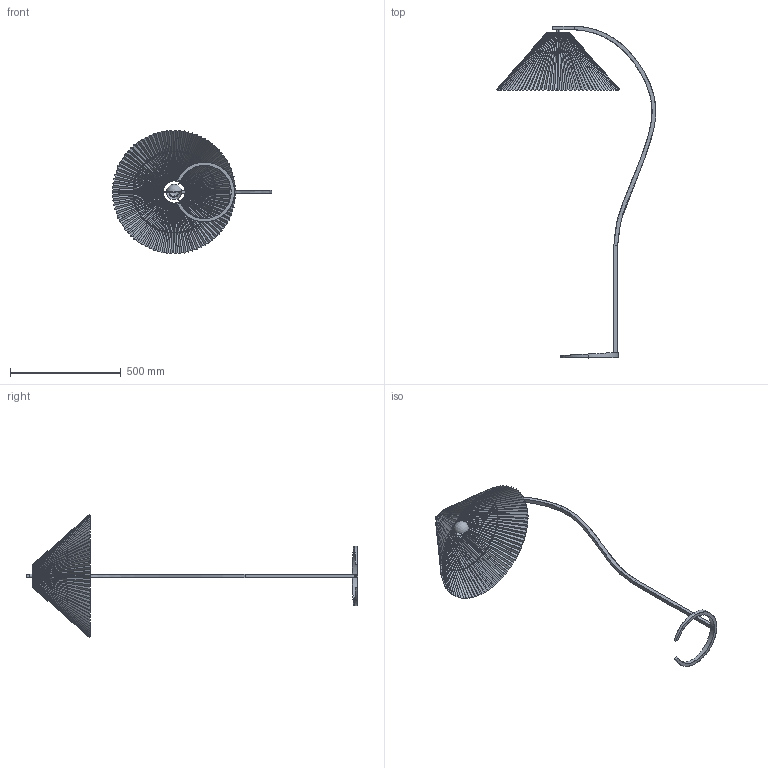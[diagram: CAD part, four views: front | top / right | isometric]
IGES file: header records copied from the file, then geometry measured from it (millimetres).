
Start section: SolidWorks IGES file using analytic representation for surfaces
Global section: file name: F:\燠隴矨\3D\2024-7\Caprani Floor Lamp.IGS,15; native system: HSolidWorks 2022; preprocessor: SolidWorks 2022; author: MyPC; date: 240730.213945; units: millimetre
Bounding box: 721.6 x 1500.01 x 559.56 mm (x, y, z)
Surface area: 1125196.6 mm2 (no closed solid volume)
Topology: 0 solids, 0 shells, 1053 faces, 7811 edges, 7810 vertices
Faces by surface type: bspline 975, revolution 78
